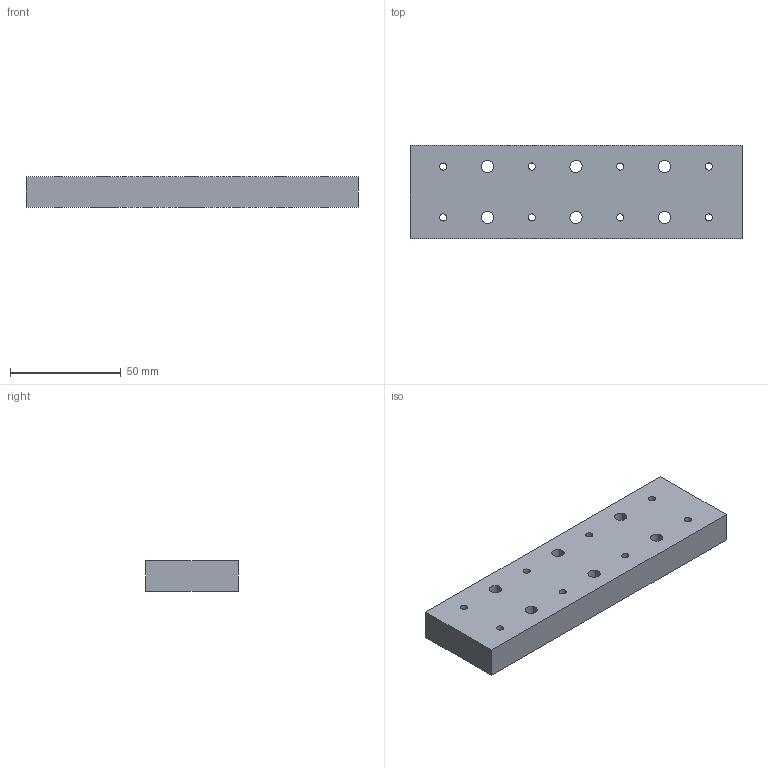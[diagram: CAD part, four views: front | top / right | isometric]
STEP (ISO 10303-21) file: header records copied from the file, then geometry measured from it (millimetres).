
FILE_DESCRIPTION(('CATIA V5 STEP Exchange'),'2;1');
FILE_NAME('D:\姚明阳\1、工装图纸\AGZ036 按压速降阀管箍锁紧工装\AGZ036.02_V1.stp','2025-08-27T06:35:27+00:00',('none'),('none'),'CATIA Version 5 Release 21 GA (IN-10)','CATIA V5 STEP AP214','none');
FILE_SCHEMA(('AUTOMOTIVE_DESIGN { 1 0 10303 214 1 1 1 1 }'));
Length unit declared in the file: millimetre
Products named in the file (1): AGZ036.02_V1
Bounding box: 150 x 42 x 14 mm (x, y, z)
Volume: 82286.2 mm3; surface area: 20876.7 mm2
Topology: 1 solids, 1 shells, 52 faces, 132 edges, 88 vertices
Faces by surface type: cylinder 40, plane 12
Entity records: 1489 total; most frequent: ORIENTED_EDGE 264, CARTESIAN_POINT 248, DIRECTION 186, EDGE_CURVE 132, AXIS2_PLACEMENT_3D 108, VERTEX_POINT 88, EDGE_LOOP 86, CIRCLE 80
